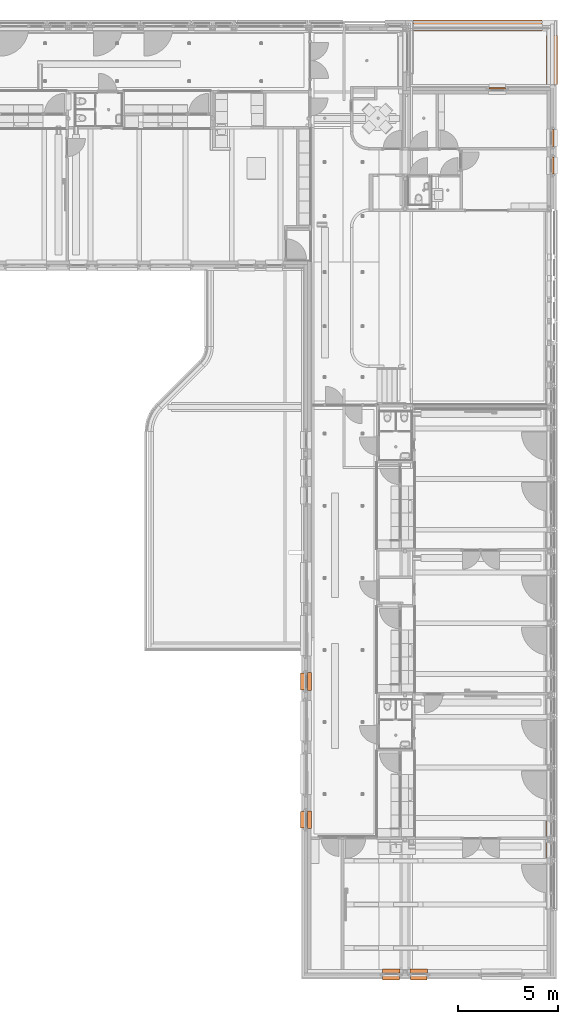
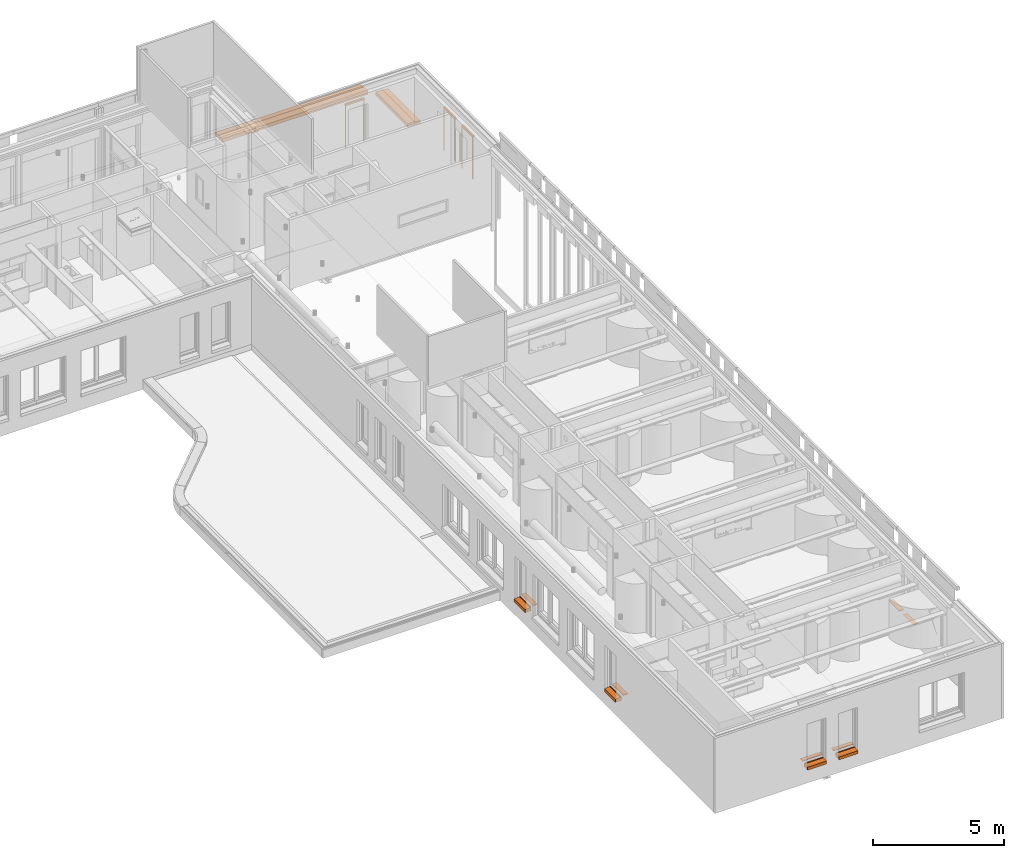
# One storey, part 122 of 128: 15 proxies.
"""IFC2X3 building model written with IfcOpenShell, lengths in millimetres."""

from ifc_helpers import new_model, entity, si_unit, converted_unit, derived_unit, direction, frame, frame_2d, origin, origin_2d_with_axis, place, context, subcontext, project, spatial, polyline, circle_curve, parameter, trimmed, segment, composite_curve, rectangle, outline, extrude, source, transform, mapped, material, material_list, type_object, type_shapes, element, save


model = new_model("IFC2X3")

# Units and contexts
model_context = context("Model", 3, precision=0.01, world=origin(), true_north=direction((6.123031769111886e-17, 1.0)))
body_context = subcontext(model_context, "Body", "Model", "MODEL_VIEW")
ifc_project = project(units=[si_unit("LENGTHUNIT", "METRE", prefix="MILLI"), si_unit("AREAUNIT", "SQUARE_METRE"), si_unit("VOLUMEUNIT", "CUBIC_METRE"), converted_unit("PLANEANGLEUNIT", "DEGREE", entity("IfcRatioMeasure", 0.017453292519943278), si_unit("PLANEANGLEUNIT", "RADIAN"), dimensions=[0, 0, 0, 0, 0, 0, 0]), si_unit("MASSUNIT", "GRAM", prefix="KILO"), derived_unit("MASSDENSITYUNIT", [(si_unit("MASSUNIT", "GRAM", prefix="KILO"), 1), (si_unit("LENGTHUNIT", "METRE"), -3)]), derived_unit("IONCONCENTRATIONUNIT", [(si_unit("MASSUNIT", "GRAM", prefix="KILO"), 1), (si_unit("LENGTHUNIT", "METRE"), -3)]), derived_unit("MOMENTOFINERTIAUNIT", [(si_unit("LENGTHUNIT", "METRE"), 4)]), si_unit("TIMEUNIT", "SECOND"), si_unit("FREQUENCYUNIT", "HERTZ"), si_unit("THERMODYNAMICTEMPERATUREUNIT", "DEGREE_CELSIUS"), derived_unit("THERMALTRANSMITTANCEUNIT", [(si_unit("MASSUNIT", "GRAM", prefix="KILO"), 1), (si_unit("THERMODYNAMICTEMPERATUREUNIT", "KELVIN"), -1), (si_unit("TIMEUNIT", "SECOND"), -3)]), derived_unit("THERMALCONDUCTANCEUNIT", [(si_unit("MASSUNIT", "GRAM", prefix="KILO"), 1), (si_unit("THERMODYNAMICTEMPERATUREUNIT", "KELVIN"), -1), (si_unit("TIMEUNIT", "SECOND"), -3), (si_unit("LENGTHUNIT", "METRE"), 1)]), derived_unit("VOLUMETRICFLOWRATEUNIT", [(si_unit("LENGTHUNIT", "METRE"), 3), (si_unit("TIMEUNIT", "SECOND"), -1)]), derived_unit("MASSFLOWRATEUNIT", [(si_unit("MASSUNIT", "GRAM", prefix="KILO"), 1), (si_unit("TIMEUNIT", "SECOND"), -1)]), derived_unit("ROTATIONALFREQUENCYUNIT", [(si_unit("TIMEUNIT", "SECOND"), -1)]), si_unit("ELECTRICCURRENTUNIT", "AMPERE"), si_unit("ELECTRICVOLTAGEUNIT", "VOLT"), si_unit("POWERUNIT", "WATT"), si_unit("FORCEUNIT", "NEWTON", prefix="KILO"), si_unit("ILLUMINANCEUNIT", "LUX"), si_unit("LUMINOUSFLUXUNIT", "LUMEN"), si_unit("LUMINOUSINTENSITYUNIT", "CANDELA"), derived_unit("USERDEFINED", [(si_unit("MASSUNIT", "GRAM", prefix="KILO"), -1), (si_unit("LENGTHUNIT", "METRE"), -2), (si_unit("TIMEUNIT", "SECOND"), 3), (si_unit("LUMINOUSFLUXUNIT", "LUMEN"), 1)]), derived_unit("USERDEFINED", [(si_unit("MASSUNIT", "GRAM", prefix="KILO"), 1), (si_unit("TIMEUNIT", "SECOND"), -3), (si_unit("LENGTHUNIT", "METRE"), 3), (si_unit("ELECTRICCURRENTUNIT", "AMPERE"), -2)]), derived_unit("SOUNDPOWERUNIT", [(si_unit("MASSUNIT", "GRAM", prefix="KILO"), 1), (si_unit("TIMEUNIT", "SECOND"), -3), (si_unit("LENGTHUNIT", "METRE"), 2)]), derived_unit("SOUNDPRESSUREUNIT", [(si_unit("MASSUNIT", "GRAM", prefix="KILO"), 1), (si_unit("LENGTHUNIT", "METRE"), -1), (si_unit("TIMEUNIT", "SECOND"), -2)]), derived_unit("LINEARVELOCITYUNIT", [(si_unit("LENGTHUNIT", "METRE"), 1), (si_unit("TIMEUNIT", "SECOND"), -1)]), si_unit("PRESSUREUNIT", "PASCAL"), derived_unit("USERDEFINED", [(si_unit("MASSUNIT", "GRAM", prefix="KILO"), 1), (si_unit("LENGTHUNIT", "METRE"), -2), (si_unit("TIMEUNIT", "SECOND"), -2)]), derived_unit("LINEARFORCEUNIT", [(si_unit("MASSUNIT", "GRAM", prefix="KILO"), 1), (si_unit("TIMEUNIT", "SECOND"), -2)]), derived_unit("PLANARFORCEUNIT", [(si_unit("MASSUNIT", "GRAM", prefix="KILO"), 1), (si_unit("LENGTHUNIT", "METRE"), -1), (si_unit("TIMEUNIT", "SECOND"), -2)]), derived_unit("SPECIFICHEATCAPACITYUNIT", [(si_unit("THERMODYNAMICTEMPERATUREUNIT", "KELVIN"), -1), (si_unit("LENGTHUNIT", "METRE"), 2), (si_unit("TIMEUNIT", "SECOND"), -2)]), derived_unit("HEATINGVALUEUNIT", [(si_unit("LENGTHUNIT", "METRE"), 2), (si_unit("TIMEUNIT", "SECOND"), -2)]), derived_unit("VAPORPERMEABILITYUNIT", [(si_unit("LENGTHUNIT", "METRE"), -1), (si_unit("TIMEUNIT", "SECOND"), 1)]), derived_unit("DYNAMICVISCOSITYUNIT", [(si_unit("MASSUNIT", "GRAM", prefix="KILO"), 1), (si_unit("TIMEUNIT", "SECOND"), -1), (si_unit("LENGTHUNIT", "METRE"), -1)]), derived_unit("THERMALEXPANSIONCOEFFICIENTUNIT", [(si_unit("THERMODYNAMICTEMPERATUREUNIT", "KELVIN"), -1)]), derived_unit("MODULUSOFELASTICITYUNIT", [(si_unit("MASSUNIT", "GRAM", prefix="KILO"), 1), (si_unit("LENGTHUNIT", "METRE"), -1), (si_unit("TIMEUNIT", "SECOND"), -2)]), derived_unit("ISOTHERMALMOISTURECAPACITYUNIT", [(si_unit("LENGTHUNIT", "METRE"), 3), (si_unit("MASSUNIT", "GRAM", prefix="KILO"), -1)]), derived_unit("MOISTUREDIFFUSIVITYUNIT", [(si_unit("TIMEUNIT", "SECOND"), -1), (si_unit("LENGTHUNIT", "METRE"), 2)])], contexts=[model_context])

# Site, building, storey
site_placement = place(None, frame((0.0, 300.0, 0.0)))
site = spatial("IfcSite", under=ifc_project, at=site_placement, Name="<Kadastrale nummers>", CompositionType="ELEMENT")
building_placement = place(site_placement, origin())
building = spatial("IfcBuilding", under=site, at=building_placement, CompositionType="ELEMENT")
storey_placement = place(building_placement, frame((0.0, 0.0, 3560.0000331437)))
storey = spatial("IfcBuildingStorey", under=building, at=storey_placement, Name="01 eerste verdieping", CompositionType="ELEMENT", Elevation=3560.0000331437)

# Proxies
ifc_material_1 = material(Name="ISR_Beton_prefab")
building_element_proxy_type_1 = type_object("IfcBuildingElementProxyType", Name="29_DAT_Prefab betonnen afdekplaat:29_DAT_Prefab betonnen afdekplaat", PredefinedType="NOTDEFINED", material=ifc_material_1)
shared_shape_1 = source(origin(), body_context, "Body", "SweptSolid", [
    extrude(outline(composite_curve([segment(polyline([(-42.16535093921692, -221.11111111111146), (88.96248317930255, -221.11111111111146)]), True, "CONTINUOUS"), segment(polyline([(88.96248317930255, -221.11111111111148), (88.96248317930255, -196.11111111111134)]), True, "CONTINUOUS"), segment(trimmed(circle_curve(frame_2d((88.96248317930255, -191.11111111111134), x_axis=(0.0, -1.0)), 5.000000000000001), [parameter(179.99999999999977)], [parameter(359.9999999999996)], True, "PARAMETER"), False, "CONTINUOUS"), segment(polyline([(88.96248317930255, -186.1111111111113), (88.96248317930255, 338.8888888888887)]), True, "CONTINUOUS"), segment(polyline([(88.96248317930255, 338.8888888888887), (-76.25970136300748, 338.8888888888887)]), True, "CONTINUOUS"), segment(polyline([(-76.25970136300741, 338.8888888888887), (-86.0375168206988, 58.888888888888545)]), True, "CONTINUOUS"), segment(polyline([(-86.0375168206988, 58.88888888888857), (-86.0375168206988, 43.888888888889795)]), True, "CONTINUOUS"), segment(polyline([(-86.0375168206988, 43.888888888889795), (-65.34984677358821, 43.888888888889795)]), True, "CONTINUOUS"), segment(polyline([(-65.34984677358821, 43.888888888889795), (-42.16535093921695, -221.11111111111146)]), True, "CONTINUOUS")], self_intersect=False)), frame((0.0, 161.11111111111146, -86.03751682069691), z_axis=(1.0, 0.0, 0.0), x_axis=(0.0, 0.0, -1.0)), (0.0, 0.0, 1.0), 6422.999999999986),
])
type_shapes(building_element_proxy_type_1, [shared_shape_1])
proxy_1_placement = place(storey_placement, frame((48254.0, 50165.0, 890.0000018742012), z_axis=(0.0, 0.0, 1.0), x_axis=(-1.0, 0.0, 0.0)))
element("IfcBuildingElementProxy", 1, at=proxy_1_placement, inside=storey, type_object=building_element_proxy_type_1, material=ifc_material_1, Name="29_DAT_Prefab betonnen afdekplaat:29_DAT_Prefab betonnen afdekplaat", ObjectType="29_DAT_Prefab betonnen afdekplaat:29_DAT_Prefab betonnen afdekplaat", context=body_context, shape_type="MappedRepresentation", body=[
    mapped(shared_shape_1, transform((0.0, 0.0, 0.0), scale=1.0)),
])
building_element_proxy_type_2 = type_object("IfcBuildingElementProxyType", Name="29_DAT_Prefab betonnen afdekplaat:29_DAT_Prefab betonnen afdekplaat", PredefinedType="NOTDEFINED", material=ifc_material_1)
shared_shape_2 = source(origin(), body_context, "Body", "SweptSolid", [
    extrude(outline(composite_curve([segment(polyline([(-42.16535093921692, -221.11111111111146), (88.96248317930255, -221.11111111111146)]), True, "CONTINUOUS"), segment(polyline([(88.96248317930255, -221.11111111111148), (88.96248317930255, -196.11111111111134)]), True, "CONTINUOUS"), segment(trimmed(circle_curve(frame_2d((88.96248317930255, -191.11111111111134), x_axis=(0.0, -1.0)), 5.000000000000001), [parameter(179.99999999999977)], [parameter(359.9999999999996)], True, "PARAMETER"), False, "CONTINUOUS"), segment(polyline([(88.96248317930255, -186.1111111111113), (88.96248317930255, 338.8888888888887)]), True, "CONTINUOUS"), segment(polyline([(88.96248317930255, 338.8888888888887), (-76.25970136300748, 338.8888888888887)]), True, "CONTINUOUS"), segment(polyline([(-76.25970136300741, 338.8888888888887), (-86.0375168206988, 58.888888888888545)]), True, "CONTINUOUS"), segment(polyline([(-86.0375168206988, 58.88888888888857), (-86.0375168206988, 43.888888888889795)]), True, "CONTINUOUS"), segment(polyline([(-86.0375168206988, 43.888888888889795), (-65.34984677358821, 43.888888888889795)]), True, "CONTINUOUS"), segment(polyline([(-65.34984677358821, 43.888888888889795), (-42.16535093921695, -221.11111111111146)]), True, "CONTINUOUS")], self_intersect=False)), frame((0.0, 161.11111111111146, -86.03751682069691), z_axis=(1.0, 0.0, 0.0), x_axis=(0.0, 0.0, -1.0)), (0.0, 0.0, 1.0), 2453.9999999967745),
])
type_shapes(building_element_proxy_type_2, [shared_shape_2])
proxy_2_placement = place(storey_placement, frame((48965.0, 47000.0, 890.0000018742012), z_axis=(0.0, 0.0, 1.0), x_axis=(0.0, 1.0, 0.0)))
element("IfcBuildingElementProxy", 2, at=proxy_2_placement, inside=storey, type_object=building_element_proxy_type_2, material=ifc_material_1, Name="29_DAT_Prefab betonnen afdekplaat:29_DAT_Prefab betonnen afdekplaat", ObjectType="29_DAT_Prefab betonnen afdekplaat:29_DAT_Prefab betonnen afdekplaat", context=body_context, shape_type="MappedRepresentation", body=[
    mapped(shared_shape_2, transform((0.0, 0.0, 0.0), scale=1.0)),
])

# Space
space_1_placement = place(storey_placement, origin())
space_1 = spatial("IfcSpace", under=storey, at=space_1_placement, Name="1.23", CompositionType="ELEMENT", InteriorOrExteriorSpace="INTERNAL")

# Proxy
ifc_material_2 = material(Name="e1_natuursteen")
building_element_proxy_type_3 = type_object("IfcBuildingElementProxyType", Name="NLRS_31_GM_WPB_vensterbank natuursteen -SH_gen_ASN:200x18", PredefinedType="USERDEFINED", material=ifc_material_2)
shared_shape_3 = source(origin(), body_context, "Body", "SweptSolid", [
    extrude(rectangle(XDim=200.0, YDim=789.9989494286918, at=origin_2d_with_axis()), frame((0.0, -100.0, 0.0), z_axis=(0.0, 0.0, 1.0), x_axis=(0.0, -1.0, 0.0)), (0.0, 0.0, 1.0), 17.999999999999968),
])
type_shapes(building_element_proxy_type_3, [shared_shape_3])
proxy_3_placement = place(space_1_placement, frame((48468.0, 9834.999474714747, 920.0000018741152), z_axis=(0.0, 0.0, 1.0), x_axis=(0.0, 1.0, 0.0)))
element("IfcBuildingElementProxy", 3, at=proxy_3_placement, inside=space_1, type_object=building_element_proxy_type_3, material=ifc_material_2, Name="NLRS_31_GM_WPB_vensterbank natuursteen -SH_gen_ASN:200x18", ObjectType="NLRS_31_GM_WPB_vensterbank natuursteen -SH_gen_ASN:200x18", context=body_context, shape_type="MappedRepresentation", body=[
    mapped(shared_shape_3, transform((0.0, 0.0, 0.0), scale=1.0)),
])

# Space
space_2_placement = place(storey_placement, origin())
space_2 = spatial("IfcSpace", under=storey, at=space_2_placement, Name="1.24", CompositionType="ELEMENT", InteriorOrExteriorSpace="INTERNAL")

# Proxies
proxy_4_placement = place(space_2_placement, frame((48468.0, 8764.999474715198, 920.0000018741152), z_axis=(0.0, 0.0, 1.0), x_axis=(0.0, 1.0, 0.0)))
element("IfcBuildingElementProxy", 4, at=proxy_4_placement, inside=space_2, type_object=building_element_proxy_type_3, material=ifc_material_2, Name="NLRS_31_GM_WPB_vensterbank natuursteen -SH_gen_ASN:200x18", ObjectType="NLRS_31_GM_WPB_vensterbank natuursteen -SH_gen_ASN:200x18", context=body_context, shape_type="MappedRepresentation", body=[
    mapped(shared_shape_3, transform((0.0, 0.0, 0.0), scale=1.0)),
])
building_element_proxy_type_4 = type_object("IfcBuildingElementProxyType", Name="NLRS_31_GM_WPB_vensterbank natuursteen -SH_gen_ASN:200x18", PredefinedType="USERDEFINED", material=ifc_material_2)
shared_shape_4 = source(origin(), body_context, "Body", "SweptSolid", [
    extrude(rectangle(XDim=200.0, YDim=880.0000000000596, at=origin_2d_with_axis()), frame((0.0, -100.0, 0.0), z_axis=(0.0, 0.0, 1.0), x_axis=(0.0, -1.0, 0.0)), (0.0, 0.0, 1.0), 17.999999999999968),
])
type_shapes(building_element_proxy_type_4, [shared_shape_4])
for number, where, z_axis, x_axis, name in (
    (5, (36530.0, 10290.0, 920.0000018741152), (0.0, 0.0, 1.0), (0.0, 1.0, 0.0), "NLRS_31_GM_WPB_vensterbank natuursteen -SH_gen_ASN:200x18"),
    (6, (40710.0, 2629.9986232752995, 920.0000018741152), (0.0, 0.0, 1.0), (-1.0, 0.0, 0.0), "NLRS_31_GM_WPB_vensterbank natuursteen -SH_gen_ASN:200x18"),
    (7, (42090.0, 2629.998623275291, 920.0000018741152), (0.0, 0.0, 1.0), (-1.0, 0.0, 0.0), "NLRS_31_GM_WPB_vensterbank natuursteen -SH_gen_ASN:200x18"),
    (8, (36530.0, 17190.0, 920.0000018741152), (0.0, 0.0, 1.0), (0.0, 1.0, 0.0), "NLRS_31_GM_WPB_vensterbank natuursteen -SH_gen_ASN:200x18"),
):
    element("IfcBuildingElementProxy", number, at=place(storey_placement, frame(where, z_axis=z_axis, x_axis=x_axis)), inside=storey, type_object=building_element_proxy_type_4, material=ifc_material_2, Name=name, ObjectType="NLRS_31_GM_WPB_vensterbank natuursteen -SH_gen_ASN:200x18", context=body_context, shape_type="MappedRepresentation", body=[
        mapped(shared_shape_4, transform((0.0, 0.0, 0.0), scale=1.0)),
    ])
building_element_proxy_type_5 = type_object("IfcBuildingElementProxyType", Name="29_DAT_Prefab betonnen waterslag kort:29_DAT_Prefab betonnen waterslag kort", PredefinedType="NOTDEFINED", material=ifc_material_1)
shared_shape_5 = source(origin(), body_context, "Body", "SweptSolid", [
    extrude(outline(composite_curve([segment(polyline([(-95.62465990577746, -137.5), (79.37534009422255, -137.5)]), True, "CONTINUOUS"), segment(polyline([(79.37534009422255, -137.5), (79.37534009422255, 107.49999999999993)]), True, "CONTINUOUS"), segment(trimmed(circle_curve(frame_2d((79.37534009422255, 112.49999999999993), x_axis=(0.0, 1.0)), 5.000000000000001), [parameter(4.0711099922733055e-13)], [parameter(180.00000000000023)], True, "PARAMETER"), False, "CONTINUOUS"), segment(polyline([(79.37534009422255, 117.49999999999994), (79.37534009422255, 132.5)]), True, "CONTINUOUS"), segment(polyline([(79.37534009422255, 132.5), (-52.6273806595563, 132.5)]), True, "CONTINUOUS"), segment(polyline([(-52.62738065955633, 132.50000000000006), (-73.62465990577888, -107.49999999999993)]), True, "CONTINUOUS"), segment(polyline([(-73.62465990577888, -107.49999999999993), (-95.62465990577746, -107.49999999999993)]), True, "CONTINUOUS"), segment(polyline([(-95.62465990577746, -107.49999999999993), (-95.62465990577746, -137.5)]), True, "CONTINUOUS")], self_intersect=False)), frame((0.0, -82.50000000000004, -95.62465990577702), z_axis=(1.0, 0.0, 0.0), x_axis=(0.0, 0.0, -1.0)), (0.0, 0.0, 1.0), 840.0000000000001),
])
type_shapes(building_element_proxy_type_5, [shared_shape_5])
for number, where, z_axis, x_axis, name in (
    (9, (36235.0, 9870.0, 890.0000018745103), (0.0, 0.0, 1.0), (0.0, 1.0, 0.0), "29_DAT_Prefab betonnen waterslag kort:29_DAT_Prefab betonnen waterslag kort"),
    (10, (41130.0, 2334.9986232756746, 890.0000018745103), (0.0, 0.0, 1.0), (-1.0, 0.0, 0.0), "29_DAT_Prefab betonnen waterslag kort:29_DAT_Prefab betonnen waterslag kort"),
    (11, (42510.0, 2334.99862327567, 890.0000018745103), (0.0, 0.0, 1.0), (-1.0, 0.0, 0.0), "29_DAT_Prefab betonnen waterslag kort:29_DAT_Prefab betonnen waterslag kort"),
    (12, (36235.0, 16770.0, 890.0000018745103), (0.0, 0.0, 1.0), (0.0, 1.0, 0.0), "29_DAT_Prefab betonnen waterslag kort:29_DAT_Prefab betonnen waterslag kort"),
):
    element("IfcBuildingElementProxy", number, at=place(storey_placement, frame(where, z_axis=z_axis, x_axis=x_axis)), inside=storey, type_object=building_element_proxy_type_5, material=ifc_material_1, Name=name, ObjectType="29_DAT_Prefab betonnen waterslag kort:29_DAT_Prefab betonnen waterslag kort", context=body_context, shape_type="MappedRepresentation", body=[
        mapped(shared_shape_5, transform((0.0, 0.0, 0.0), scale=1.0)),
    ])
ifc_material_3 = material(Name="STAAL_RAL 7006")
ifc_material_4 = material(Name="<Unnamed>")
ifc_material_list = material_list([ifc_material_3, ifc_material_4])
building_element_proxy_type_6 = type_object("IfcBuildingElementProxyType", Name="31_DAT_Screen_zonwering_bak85:31_DAT_Screen_zonwering_bak85", PredefinedType="NOTDEFINED", material=ifc_material_list)
shared_shape_6 = source(origin(), body_context, "Body", "SweptSolid", [
    extrude(outline(polyline([(-53.573897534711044, -60.698648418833), (27.826102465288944, -60.698648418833), (27.826102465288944, 17.501351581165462), (24.626102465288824, 17.501351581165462), (24.626102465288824, 22.501351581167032), (1.1216926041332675, 22.501351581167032), (1.1216926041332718, 20.695945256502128), (-53.573897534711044, 20.695945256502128), (-53.573897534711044, -60.698648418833)])), frame((838.0, 29.62610246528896, 2772.501351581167), z_axis=(1.0, 0.0, 0.0), x_axis=(0.0, -1.0, 0.0)), (0.0, 0.0, 1.0), 1.9999999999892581),
    extrude(outline(polyline([(-51.082598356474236, -55.832432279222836), (33.91740164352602, -55.832432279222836), (33.91740164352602, 29.167567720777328), (28.91740164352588, 29.167567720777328), (28.91740164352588, 24.16756772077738), (32.117401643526, 24.16756772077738), (32.117401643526, -54.032432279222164), (-49.28259835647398, -54.032432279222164), (-49.28259835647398, 27.362161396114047), (5.41299178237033, 27.362161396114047), (5.41299178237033, 29.167567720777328), (-51.082598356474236, 29.167567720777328), (-51.082598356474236, -55.832432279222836)])), frame((0.0, 33.91740164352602, 2779.1675677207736), z_axis=(1.0, 0.0, 0.0), x_axis=(0.0, -1.0, 0.0)), (0.0, 0.0, 1.0), 839.9999999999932),
    extrude(outline(polyline([(-53.573897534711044, -60.698648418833), (27.826102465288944, -60.698648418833), (27.826102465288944, 17.501351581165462), (24.626102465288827, 17.501351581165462), (24.626102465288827, 22.501351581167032), (1.1216926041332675, 22.501351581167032), (1.1216926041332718, 20.695945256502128), (-53.573897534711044, 20.695945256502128), (-53.573897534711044, -60.698648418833)])), frame((0.0, 29.62610246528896, 2772.501351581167), z_axis=(1.0, 0.0, 0.0), x_axis=(0.0, -1.0, 0.0)), (0.0, 0.0, 1.0), 1.999999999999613),
    extrude(rectangle(XDim=1.163311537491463, YDim=800.0000000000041, at=frame_2d((2.1094237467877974e-15, 0.0), x_axis=(1.0, 0.0))), frame((420.0, 20.03729323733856, 2750.0), z_axis=(0.0, 0.0, 1.0), x_axis=(0.0, -1.0, 0.0)), (0.0, 0.0, 1.0), 47.3934410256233),
    extrude(outline(composite_curve([segment(trimmed(circle_curve(frame_2d((21.523758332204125, 7.502327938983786), x_axis=(1.0, 0.0)), 1.5000000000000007), [parameter(6.615553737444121e-13)], [parameter(90.00000000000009)], True, "PARAMETER"), True, "CONTINUOUS"), segment(polyline([(21.523758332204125, 9.00232793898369), (-8.97624166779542, 9.00232793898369)]), True, "CONTINUOUS"), segment(trimmed(circle_curve(frame_2d((-8.97624166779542, 6.00232793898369), x_axis=(1.0, 0.0)), 3.0), [parameter(90.00000000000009)], [parameter(172.8445490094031)], True, "PARAMETER"), True, "CONTINUOUS"), segment(polyline([(-11.952877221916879, 6.376013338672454), (-12.470504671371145, 2.2367466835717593)]), True, "CONTINUOUS"), segment(trimmed(circle_curve(frame_2d((-11.733933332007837, 2.1446362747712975), x_axis=(1.0, 0.0)), 0.7423083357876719), [parameter(172.87199730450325)], [parameter(320.7928857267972)], True, "PARAMETER"), True, "CONTINUOUS"), segment(trimmed(circle_curve(frame_2d((-8.97624166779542, 0.002327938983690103), x_axis=(1.0, 0.0)), 2.75), [parameter(218.21030001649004)], [parameter(142.52672013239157)], True, "PARAMETER"), False, "CONTINUOUS"), segment(trimmed(circle_curve(frame_2d((-11.733933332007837, -2.1399803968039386), x_axis=(1.0, 0.0)), 0.7423083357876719), [parameter(36.476465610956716)], [parameter(187.12800269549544)], True, "PARAMETER"), True, "CONTINUOUS"), segment(polyline([(-12.470504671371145, -2.2320908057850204), (-11.95287722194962, -6.3713574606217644)]), True, "CONTINUOUS"), segment(trimmed(circle_curve(frame_2d((-8.97624166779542, -5.9976720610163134), x_axis=(1.0, 0.0)), 3.0), [parameter(187.15545099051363)], [parameter(269.9999999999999)], True, "PARAMETER"), True, "CONTINUOUS"), segment(polyline([(-8.97624166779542, -8.997672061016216), (21.523758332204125, -8.997672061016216)]), True, "CONTINUOUS"), segment(trimmed(circle_curve(frame_2d((21.523758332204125, -7.497672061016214), x_axis=(1.0, 0.0)), 1.4999999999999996), [parameter(269.9999999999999)], [parameter(7.124442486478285e-13)], True, "PARAMETER"), True, "CONTINUOUS"), segment(polyline([(23.02375833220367, -7.4976720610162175), (23.02375833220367, 7.50232793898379)]), True, "CONTINUOUS")], self_intersect=False)), frame((20.0, 19.99767206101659, 2790.417199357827), z_axis=(1.0, 0.0, 0.0), x_axis=(0.0, 0.0, -1.0)), (0.0, 0.0, 1.0), 800.0000000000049),
    extrude(outline(polyline([(-16.231574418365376, -14.638298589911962), (13.768425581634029, -14.638298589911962), (13.768425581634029, 15.36170141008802), (-6.2315744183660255, 15.36170141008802), (-6.2315744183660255, 10.361701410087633), (-4.769580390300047, 10.361701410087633), (-4.769580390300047, 13.866111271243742), (12.23272922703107, 13.866111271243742), (12.23272922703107, -4.579546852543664), (-4.769580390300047, -4.579546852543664), (-4.769580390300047, -1.1166850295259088), (-6.231574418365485, -1.1166850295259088), (-6.231574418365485, -6.116685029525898), (12.232729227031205, -6.116685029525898), (12.232729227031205, -13.138298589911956), (-16.231574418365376, -13.138298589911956), (-16.231574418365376, -14.638298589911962)])), frame((826.2315744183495, 14.638298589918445, 810.0)), (0.0, 0.0, 1.0), 1940.0000000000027),
    extrude(outline(polyline([(-14.638298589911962, -16.231574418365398), (-13.13829858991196, -16.231574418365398), (-13.13829858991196, 12.232729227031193), (-6.116685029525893, 12.232729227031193), (-6.116685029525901, -6.231574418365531), (-1.116685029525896, -6.231574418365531), (-1.116685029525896, -4.769580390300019), (-4.579546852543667, -4.769580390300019), (-4.579546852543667, 12.2327292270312), (13.866111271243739, 12.2327292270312), (13.866111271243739, -4.769580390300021), (10.361701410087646, -4.769580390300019), (10.361701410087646, -6.231574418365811), (15.361701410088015, -6.231574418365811), (15.361701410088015, 13.76842558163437), (-14.638298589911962, 13.76842558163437), (-14.638298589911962, -16.231574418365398)])), frame((13.768425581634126, 14.638298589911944, 810.0), z_axis=(0.0, 0.0, 1.0), x_axis=(0.0, 1.0, 0.0)), (0.0, 0.0, 1.0), 1940.0000000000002),
])
type_shapes(building_element_proxy_type_6, [shared_shape_6])
for number, where, z_axis, x_axis, name in (
    (13, (48751.0, 43372.1250026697, 90.00000187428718), (0.0, 0.0, 1.0), (0.0, -1.0, 0.0), "31_DAT_Screen_zonwering_bak85:31_DAT_Screen_zonwering_bak85"),
    (14, (48751.0, 44752.12500266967, 90.00000187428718), (0.0, 0.0, 1.0), (0.0, -1.0, 0.0), "31_DAT_Screen_zonwering_bak85:31_DAT_Screen_zonwering_bak85"),
):
    element("IfcBuildingElementProxy", number, at=place(storey_placement, frame(where, z_axis=z_axis, x_axis=x_axis)), inside=storey, type_object=building_element_proxy_type_6, material=ifc_material_list, Name=name, ObjectType="31_DAT_Screen_zonwering_bak85:31_DAT_Screen_zonwering_bak85", context=body_context, shape_type="MappedRepresentation", body=[
        mapped(shared_shape_6, transform((0.0, 0.0, 0.0), scale=1.0)),
    ])
proxy_5_placement = place(storey_placement, frame((45590.0, 46776.0, 90.00000187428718)))
element("IfcBuildingElementProxy", 15, at=proxy_5_placement, inside=storey, type_object=building_element_proxy_type_6, material=ifc_material_list, Name="31_DAT_Screen_zonwering_bak85:31_DAT_Screen_zonwering_bak85", ObjectType="31_DAT_Screen_zonwering_bak85:31_DAT_Screen_zonwering_bak85", context=body_context, shape_type="MappedRepresentation", body=[
    mapped(shared_shape_6, transform((0.0, 0.0, 0.0), scale=1.0)),
])

save(model, "model.ifc")
